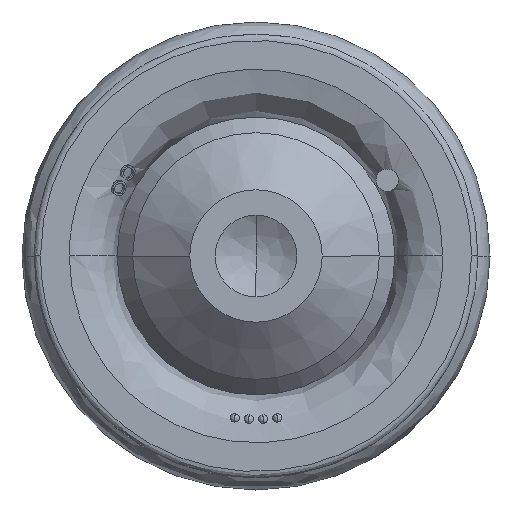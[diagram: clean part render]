
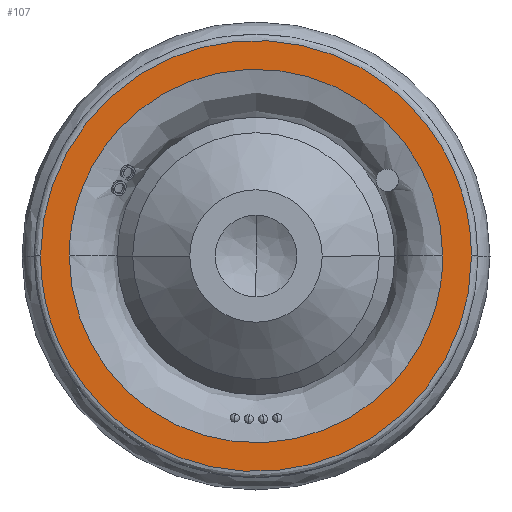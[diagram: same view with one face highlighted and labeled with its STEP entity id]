
A CAD part, left-side view. The second image highlights one B-rep face of the part: STEP entity #107.
In plain terms, the highlighted planar face has unit normal (-1, 0, 0).
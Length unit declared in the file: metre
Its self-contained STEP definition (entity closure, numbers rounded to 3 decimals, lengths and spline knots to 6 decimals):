
#107 = ADVANCED_FACE ( 'NONE', ( #8712, #6079 ), #564, .F. ) ;
#564 = PLANE ( 'NONE',  #13384 ) ;
#687 = VERTEX_POINT ( 'NONE', #23400 ) ;
#2354 = DIRECTION ( 'NONE',  ( 1., 0., 0. ) ) ;
#3823 =( BOUNDED_CURVE ( )  B_SPLINE_CURVE ( 3, ( #16513, #18758, #17193, #11506 ),
 .UNSPECIFIED., .F., .F. ) 
 B_SPLINE_CURVE_WITH_KNOTS ( ( 4, 4 ),
 ( 0., 1. ),
 .UNSPECIFIED. ) 
 CURVE ( )  GEOMETRIC_REPRESENTATION_ITEM ( )  RATIONAL_B_SPLINE_CURVE ( ( 0.957, 0.319, 0.319, 0.957 ) ) 
 REPRESENTATION_ITEM ( '' )  );
#4002 = CARTESIAN_POINT ( 'NONE',  ( 0., 0.0117, -0.00585 ) ) ;
#4946 = EDGE_CURVE ( 'NONE', #5909, #8413, #21518, .T. ) ;
#5504 = EDGE_LOOP ( 'NONE', ( #22358, #18943 ) ) ;
#5888 = CARTESIAN_POINT ( 'NONE',  ( 0., 0., -0.00585 ) ) ;
#5909 = VERTEX_POINT ( 'NONE', #9938 ) ;
#6079 = FACE_OUTER_BOUND ( 'NONE', #21992, .T. ) ;
#8413 = VERTEX_POINT ( 'NONE', #17960 ) ;
#8712 = FACE_BOUND ( 'NONE', #5504, .T. ) ;
#9510 = CARTESIAN_POINT ( 'NONE',  ( 0., 0., 0.00585 ) ) ;
#9938 = CARTESIAN_POINT ( 'NONE',  ( 0., 0., 0.00585 ) ) ;
#11506 = CARTESIAN_POINT ( 'NONE',  ( 0., 0., -0.00675 ) ) ;
#11509 = DIRECTION ( 'NONE',  ( 0., 0., -1. ) ) ;
#11993 = CARTESIAN_POINT ( 'NONE',  ( 0., 0.0135, 0.00675 ) ) ;
#12809 =( BOUNDED_CURVE ( )  B_SPLINE_CURVE ( 3, ( #22502, #14835, #22332, #9510 ),
 .UNSPECIFIED., .F., .T. ) 
 B_SPLINE_CURVE_WITH_KNOTS ( ( 4, 4 ),
 ( 0., 1. ),
 .UNSPECIFIED. ) 
 CURVE ( )  GEOMETRIC_REPRESENTATION_ITEM ( )  RATIONAL_B_SPLINE_CURVE ( ( 0.957, 0.319, 0.319, 0.957 ) ) 
 REPRESENTATION_ITEM ( '' )  );
#12860 = EDGE_CURVE ( 'NONE', #24115, #687, #3823, .T. ) ;
#13384 = AXIS2_PLACEMENT_3D ( 'NONE', #22783, #2354, #11509 ) ;
#13697 = CARTESIAN_POINT ( 'NONE',  ( 0., 0., -0.00675 ) ) ;
#13865 = CARTESIAN_POINT ( 'NONE',  ( 0., 0., 0.00675 ) ) ;
#14835 = CARTESIAN_POINT ( 'NONE',  ( 0., -0.0117, -0.00585 ) ) ;
#15041 = EDGE_CURVE ( 'NONE', #687, #24115, #17637, .T. ) ;
#16360 = EDGE_CURVE ( 'NONE', #8413, #5909, #12809, .T. ) ;
#16513 = CARTESIAN_POINT ( 'NONE',  ( 0., 0., 0.00675 ) ) ;
#17193 = CARTESIAN_POINT ( 'NONE',  ( 0., -0.0135, -0.00675 ) ) ;
#17637 =( BOUNDED_CURVE ( )  B_SPLINE_CURVE ( 3, ( #13697, #23184, #11993, #13865 ),
 .UNSPECIFIED., .F., .F. ) 
 B_SPLINE_CURVE_WITH_KNOTS ( ( 4, 4 ),
 ( 0., 1. ),
 .UNSPECIFIED. ) 
 CURVE ( )  GEOMETRIC_REPRESENTATION_ITEM ( )  RATIONAL_B_SPLINE_CURVE ( ( 0.957, 0.319, 0.319, 0.957 ) ) 
 REPRESENTATION_ITEM ( '' )  );
#17960 = CARTESIAN_POINT ( 'NONE',  ( 0., 0., -0.00585 ) ) ;
#18758 = CARTESIAN_POINT ( 'NONE',  ( 0., -0.0135, 0.00675 ) ) ;
#18919 = CARTESIAN_POINT ( 'NONE',  ( 0., 0., 0.00585 ) ) ;
#18943 = ORIENTED_EDGE ( 'NONE', *, *, #4946, .F. ) ;
#20826 = CARTESIAN_POINT ( 'NONE',  ( 0., 0., 0.00675 ) ) ;
#20830 = CARTESIAN_POINT ( 'NONE',  ( 0., 0.0117, 0.00585 ) ) ;
#21518 =( BOUNDED_CURVE ( )  B_SPLINE_CURVE ( 3, ( #18919, #20830, #4002, #5888 ),
 .UNSPECIFIED., .F., .F. ) 
 B_SPLINE_CURVE_WITH_KNOTS ( ( 4, 4 ),
 ( 0., 1. ),
 .UNSPECIFIED. ) 
 CURVE ( )  GEOMETRIC_REPRESENTATION_ITEM ( )  RATIONAL_B_SPLINE_CURVE ( ( 0.957, 0.319, 0.319, 0.957 ) ) 
 REPRESENTATION_ITEM ( '' )  );
#21992 = EDGE_LOOP ( 'NONE', ( #23220, #23984 ) ) ;
#22332 = CARTESIAN_POINT ( 'NONE',  ( 0., -0.0117, 0.00585 ) ) ;
#22358 = ORIENTED_EDGE ( 'NONE', *, *, #16360, .F. ) ;
#22502 = CARTESIAN_POINT ( 'NONE',  ( 0., 0., -0.00585 ) ) ;
#22783 = CARTESIAN_POINT ( 'NONE',  ( 0., -0.006831, 0.006831 ) ) ;
#23184 = CARTESIAN_POINT ( 'NONE',  ( 0., 0.0135, -0.00675 ) ) ;
#23220 = ORIENTED_EDGE ( 'NONE', *, *, #15041, .F. ) ;
#23400 = CARTESIAN_POINT ( 'NONE',  ( 0., 0., -0.00675 ) ) ;
#23984 = ORIENTED_EDGE ( 'NONE', *, *, #12860, .F. ) ;
#24115 = VERTEX_POINT ( 'NONE', #20826 ) ;
